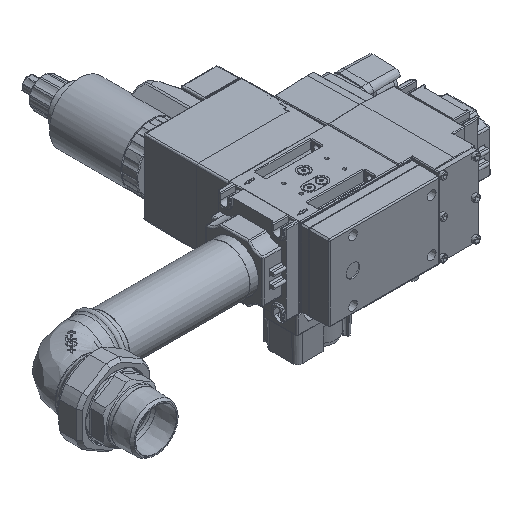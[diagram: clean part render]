
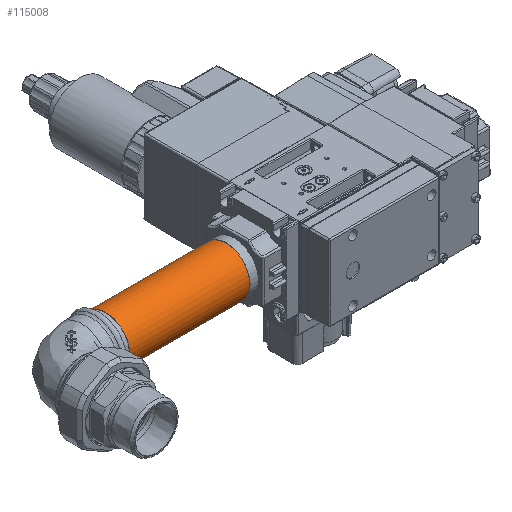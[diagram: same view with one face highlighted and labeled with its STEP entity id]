
A CAD part, isometric view. The second image highlights one B-rep face of the part: STEP entity #115008.
In plain terms, the highlighted cylindrical face has radius 30.15 mm (diameter 60.3 mm), a full revolution.
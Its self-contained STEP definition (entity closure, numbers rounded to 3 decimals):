
#10345 = CARTESIAN_POINT ( 'NONE',  ( -258., 43., 0. ) ) ;
#10958 = EDGE_CURVE ( 'NONE', #55013, #55013, #39138, .T. ) ;
#14881 = EDGE_CURVE ( 'NONE', #110309, #110309, #46275, .T. ) ;
#16797 = CARTESIAN_POINT ( 'NONE',  ( -283., 43., 0. ) ) ;
#39138 = CIRCLE ( 'NONE', #85512, 30.15 ) ;
#43342 = CARTESIAN_POINT ( 'NONE',  ( -108., 43., 0. ) ) ;
#45537 = EDGE_LOOP ( 'NONE', ( #115565 ) ) ;
#46275 = CIRCLE ( 'NONE', #79357, 30.15 ) ;
#55013 = VERTEX_POINT ( 'NONE', #117279 ) ;
#55085 = DIRECTION ( 'NONE',  ( 1., 0., 0. ) ) ;
#55766 = DIRECTION ( 'NONE',  ( 0., -0.509, 0.861 ) ) ;
#58359 = CYLINDRICAL_SURFACE ( 'NONE', #126204, 30.15 ) ;
#63597 = DIRECTION ( 'NONE',  ( 1., 0., 0. ) ) ;
#68048 = FACE_OUTER_BOUND ( 'NONE', #45537, .T. ) ;
#79357 = AXIS2_PLACEMENT_3D ( 'NONE', #43342, #55085, #55766 ) ;
#80871 = EDGE_LOOP ( 'NONE', ( #89912 ) ) ;
#85512 = AXIS2_PLACEMENT_3D ( 'NONE', #10345, #63597, #115503 ) ;
#89912 = ORIENTED_EDGE ( 'NONE', *, *, #10958, .T. ) ;
#99166 = DIRECTION ( 'NONE',  ( 1., 0., 0. ) ) ;
#110309 = VERTEX_POINT ( 'NONE', #121376 ) ;
#111587 = FACE_OUTER_BOUND ( 'NONE', #80871, .T. ) ;
#112254 = DIRECTION ( 'NONE',  ( 0., -0.509, 0.861 ) ) ;
#115008 = ADVANCED_FACE ( 'NONE', ( #111587, #68048 ), #58359, .T. ) ;
#115503 = DIRECTION ( 'NONE',  ( 0., -0.509, 0.861 ) ) ;
#115565 = ORIENTED_EDGE ( 'NONE', *, *, #14881, .F. ) ;
#117279 = CARTESIAN_POINT ( 'NONE',  ( -258., 27.663, 25.957 ) ) ;
#121376 = CARTESIAN_POINT ( 'NONE',  ( -108., 27.663, 25.957 ) ) ;
#126204 = AXIS2_PLACEMENT_3D ( 'NONE', #16797, #99166, #112254 ) ;
